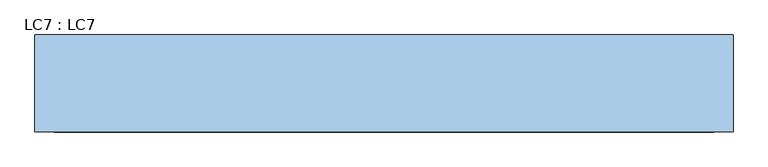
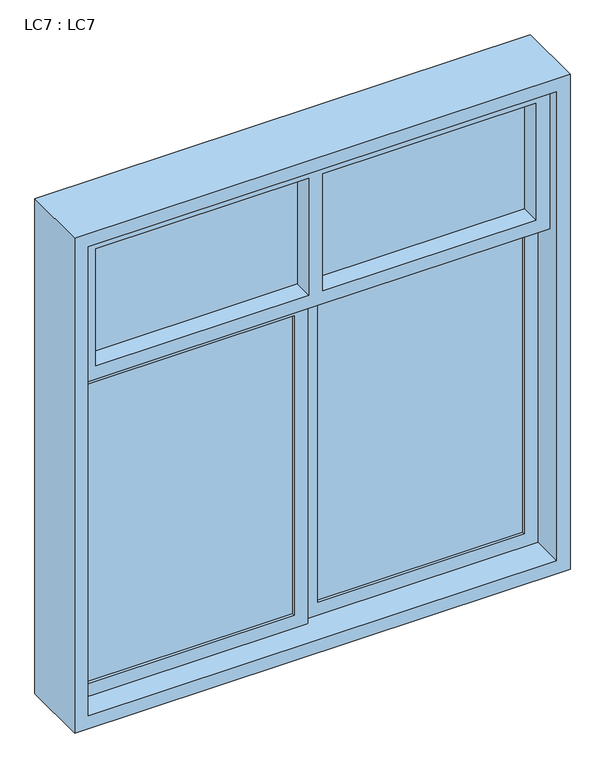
"""IFC4 building model written with IfcOpenShell, lengths in millimetres: window geometry, LC7 : LC7."""

from ifc_helpers import new_model, si_unit, frame, origin, place, context, project, spatial, polyline, outline, extrude, source, transform, mapped, element, save


def lc7_lc7_62699857(model_context):
    return source(origin(), model_context, "Body", "SweptSolid", [
        extrude(outline(polyline([(800.0, 10.0304494), (50.0, 10.0304494), (50.0, 15.0304494), (800.0, 15.0304494), (800.0, 10.0304494)])), frame((0.0, 0.0, 1600.0), z_axis=(0.0, 0.0, 1.0), x_axis=(1.0, 0.0, 0.0)), (0.0, 0.0, 1.0), 1150.0),
        extrude(outline(polyline([(-50.0, -14.9391013), (-800.0, -14.9391013), (-800.0, -9.9695506), (-50.0, -9.9695506), (-50.0, -14.9391013)])), frame((0.0, 0.0, 1600.0), z_axis=(0.0, 0.0, 1.0), x_axis=(1.0, 0.0, 0.0)), (0.0, 0.0, 1.0), 1150.0),
        extrude(outline(polyline([(-25.0, -2.5), (-800.0, -2.5), (-800.0, 2.5), (-25.0, 2.5), (-25.0, -2.5)])), frame((0.0, 0.0, 2850.0), z_axis=(0.0, 0.0, 1.0), x_axis=(1.0, 0.0, 0.0)), (0.0, 0.0, 1.0), 450.0),
        extrude(outline(polyline([(800.0, -2.5), (25.0, -2.5), (25.0, 2.5), (800.0, 2.5), (800.0, -2.5)])), frame((0.0, 0.0, 2850.0), z_axis=(0.0, 0.0, 1.0), x_axis=(1.0, 0.0, 0.0)), (0.0, 0.0, 1.0), 450.0),
        extrude(outline(polyline([(2800.0, 850.0), (2800.0, 0.0), (1550.0, 0.0), (1550.0, 850.0), (2800.0, 850.0)]), holes=[polyline([(2750.0, 800.0), (1600.0, 800.0), (1600.0, 50.0), (2750.0, 50.0), (2750.0, 800.0)])]), frame((0.0, 0.0304494, 0.0), z_axis=(0.0, 1.0, 0.0), x_axis=(0.0, 0.0, 1.0)), (0.0, 0.0, 1.0), 24.9695506),
        extrude(outline(polyline([(2800.0, 0.0), (2800.0, -850.0), (1550.0, -850.0), (1550.0, 0.0), (2800.0, 0.0)]), holes=[polyline([(2750.0, -50.0), (1600.0, -50.0), (1600.0, -800.0), (2750.0, -800.0), (2750.0, -50.0)])]), frame((0.0, -24.9391013, 0.0), z_axis=(0.0, 1.0, 0.0), x_axis=(0.0, 0.0, 1.0)), (0.0, 0.0, 1.0), 24.9391013),
        extrude(outline(polyline([(3350.0, 850.0), (3350.0, -850.0), (2800.0, -850.0), (2800.0, 1.4599267), (2800.0, 850.0), (3350.0, 850.0)]), holes=[polyline([(3300.0, -25.0), (2850.0, -25.0), (2850.0, -800.0), (3300.0, -800.0), (3300.0, -25.0)]), polyline([(3300.0, 800.0), (2850.0, 800.0), (2850.0, 25.0), (3300.0, 25.0), (3300.0, 800.0)])]), frame((0.0, -75.0, 0.0), z_axis=(0.0, 1.0, 0.0), x_axis=(0.0, 0.0, 1.0)), (0.0, 0.0, 1.0), 100.0),
        extrude(outline(polyline([(3400.0, 900.0), (3400.0, -900.0), (1500.0, -900.0), (1500.0, 900.0), (3400.0, 900.0)]), holes=[polyline([(3350.0, 850.0), (1550.0, 850.0), (1550.0, -850.0), (3350.0, -850.0), (3350.0, 850.0)])]), frame((0.0, -116.3011339, 0.0), z_axis=(0.0, 1.0, 0.0), x_axis=(0.0, 0.0, 1.0)), (0.0, 0.0, 1.0), 250.0),
    ])


if __name__ == "__main__":
    model = new_model("IFC4")
    model_context = context("Model", 3, world=origin())
    ifc_project = project(units=[si_unit("LENGTHUNIT", "METRE", prefix="MILLI")], contexts=[model_context])
    site = spatial("IfcSite", under=ifc_project)
    building = spatial("IfcBuilding", under=site)
    placement = place(None, origin())
    lc7_lc7_shape = lc7_lc7_62699857(model_context)
    element("IfcWindow", 1, ObjectType="LC7 : LC7", at=placement, inside=building, context=model_context, shape_type="MappedRepresentation", body=[
        mapped(lc7_lc7_shape, transform((0.0, 0.0, 0.0), x_axis=(1.0, 0.0, 0.0), y_axis=(0.0, 1.0, 0.0), z_axis=(0.0, 0.0, 1.0))),
    ])
    save(model, "model.ifc")
